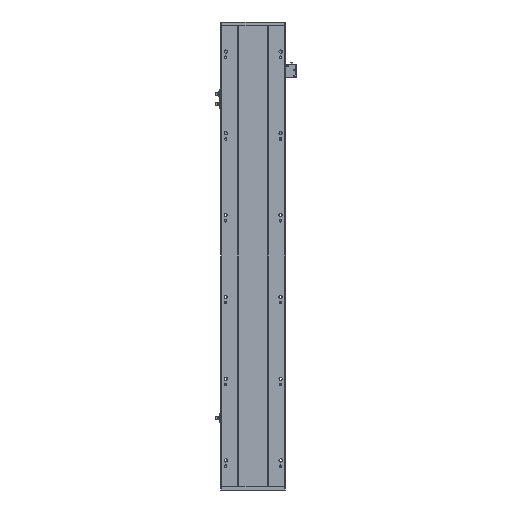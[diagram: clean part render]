
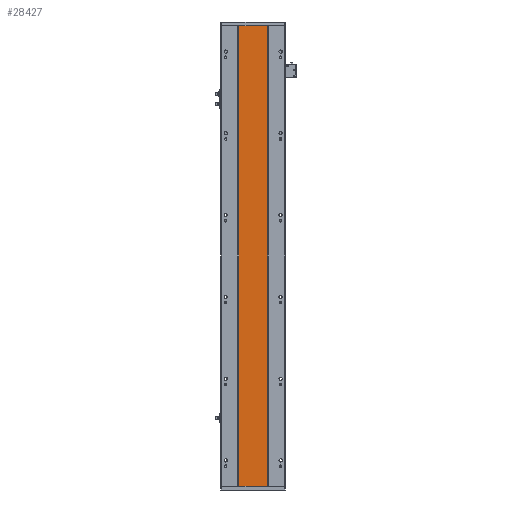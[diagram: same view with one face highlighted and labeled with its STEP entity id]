
A CAD part, front view. The second image highlights one B-rep face of the part: STEP entity #28427.
In plain terms, the highlighted planar face has unit normal (0, -1, 0).
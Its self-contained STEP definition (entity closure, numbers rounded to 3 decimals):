
#428 = LINE ( 'NONE', #19290, #11417 ) ;
#586 = VERTEX_POINT ( 'NONE', #31992 ) ;
#637 = AXIS2_PLACEMENT_3D ( 'NONE', #25451, #4947, #12445 ) ;
#1361 = VERTEX_POINT ( 'NONE', #2618 ) ;
#2492 = CARTESIAN_POINT ( 'NONE',  ( 129.288, 16.9, 1216. ) ) ;
#2552 = EDGE_CURVE ( 'NONE', #23407, #29685, #428, .T. ) ;
#2618 = CARTESIAN_POINT ( 'NONE',  ( 129.288, 16.9, 1216. ) ) ;
#2754 = ORIENTED_EDGE ( 'NONE', *, *, #2552, .T. ) ;
#4947 = DIRECTION ( 'NONE',  ( 0., 1., 0. ) ) ;
#5312 = VECTOR ( 'NONE', #15138, 1000. ) ;
#5640 = CARTESIAN_POINT ( 'NONE',  ( 205.288, 16.9, 0. ) ) ;
#6894 = LINE ( 'NONE', #2492, #5312 ) ;
#7069 = CARTESIAN_POINT ( 'NONE',  ( 129.288, 16.9, 0. ) ) ;
#8208 = CARTESIAN_POINT ( 'NONE',  ( 205.288, 16.9, 1216. ) ) ;
#8376 = VECTOR ( 'NONE', #31115, 1000. ) ;
#8464 = CARTESIAN_POINT ( 'NONE',  ( 129.288, 16.9, 1216. ) ) ;
#9034 = FACE_OUTER_BOUND ( 'NONE', #9314, .T. ) ;
#9314 = EDGE_LOOP ( 'NONE', ( #2754, #25475, #31828, #21862 ) ) ;
#11417 = VECTOR ( 'NONE', #26943, 1000. ) ;
#11522 = LINE ( 'NONE', #8208, #8376 ) ;
#12445 = DIRECTION ( 'NONE',  ( -1., 0., 0. ) ) ;
#14679 = EDGE_CURVE ( 'NONE', #586, #29685, #11522, .T. ) ;
#15138 = DIRECTION ( 'NONE',  ( 1., 0., 0. ) ) ;
#19290 = CARTESIAN_POINT ( 'NONE',  ( 205.288, 16.9, 0. ) ) ;
#20754 = EDGE_CURVE ( 'NONE', #1361, #586, #6894, .T. ) ;
#21862 = ORIENTED_EDGE ( 'NONE', *, *, #21992, .T. ) ;
#21992 = EDGE_CURVE ( 'NONE', #1361, #23407, #25538, .T. ) ;
#21994 = VECTOR ( 'NONE', #26321, 1000. ) ;
#23407 = VERTEX_POINT ( 'NONE', #7069 ) ;
#25451 = CARTESIAN_POINT ( 'NONE',  ( 205.288, 16.9, 1216. ) ) ;
#25475 = ORIENTED_EDGE ( 'NONE', *, *, #14679, .F. ) ;
#25538 = LINE ( 'NONE', #8464, #21994 ) ;
#26321 = DIRECTION ( 'NONE',  ( 0., 0., -1. ) ) ;
#26943 = DIRECTION ( 'NONE',  ( 1., 0., 0. ) ) ;
#27873 = PLANE ( 'NONE',  #637 ) ;
#28427 = ADVANCED_FACE ( 'NONE', ( #9034 ), #27873, .F. ) ;
#29685 = VERTEX_POINT ( 'NONE', #5640 ) ;
#31115 = DIRECTION ( 'NONE',  ( 0., 0., -1. ) ) ;
#31828 = ORIENTED_EDGE ( 'NONE', *, *, #20754, .F. ) ;
#31992 = CARTESIAN_POINT ( 'NONE',  ( 205.288, 16.9, 1216. ) ) ;
